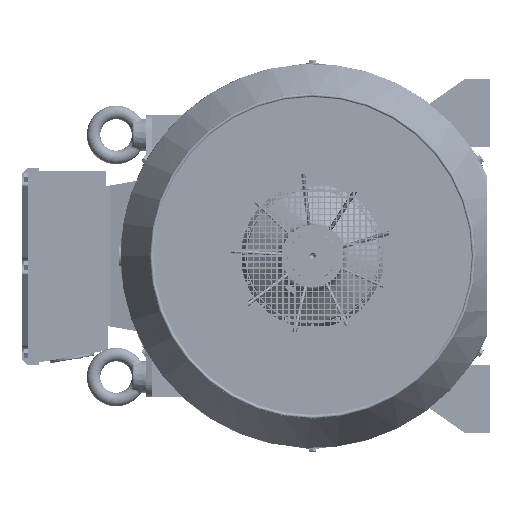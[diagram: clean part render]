
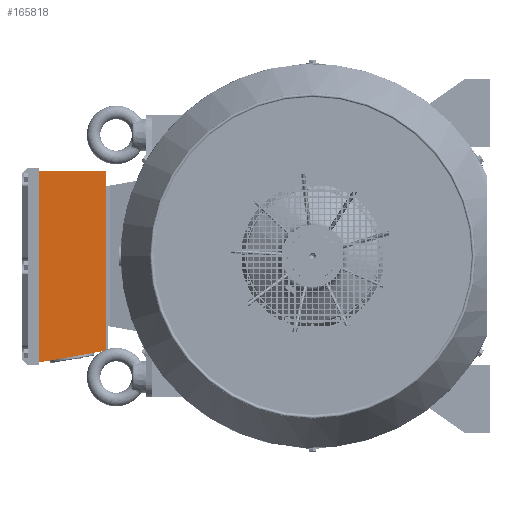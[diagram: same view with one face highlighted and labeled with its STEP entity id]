
A CAD part, left-side view. The second image highlights one B-rep face of the part: STEP entity #165818.
In plain terms, the highlighted planar face has unit normal (-1, 0, 0) as drawn and (0, 0, -1) by its records, which use the part's own axes.
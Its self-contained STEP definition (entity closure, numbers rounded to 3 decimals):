
#3386 = CARTESIAN_POINT ( 'NONE',  ( 26., 122., -140. ) ) ;
#16518 = CARTESIAN_POINT ( 'NONE',  ( 319.029, 3., -140. ) ) ;
#27875 = DIRECTION ( 'NONE',  ( 1., 0., 0. ) ) ;
#39414 = CARTESIAN_POINT ( 'NONE',  ( 0., 3., -140. ) ) ;
#53161 = ORIENTED_EDGE ( 'NONE', *, *, #104107, .F. ) ;
#55942 = DIRECTION ( 'NONE',  ( -1., 0., 0. ) ) ;
#56830 = DIRECTION ( 'NONE',  ( 0.174, 0.985, 0. ) ) ;
#63144 = EDGE_CURVE ( 'NONE', #226694, #79196, #93136, .T. ) ;
#75878 = VERTEX_POINT ( 'NONE', #145299 ) ;
#79196 = VERTEX_POINT ( 'NONE', #218479 ) ;
#93136 = LINE ( 'NONE', #146915, #173506 ) ;
#100439 = LINE ( 'NONE', #101680, #136649 ) ;
#101680 = CARTESIAN_POINT ( 'NONE',  ( 0., 3., -140. ) ) ;
#104107 = EDGE_CURVE ( 'NONE', #79196, #75878, #168438, .T. ) ;
#105660 = AXIS2_PLACEMENT_3D ( 'NONE', #3386, #115938, #175847 ) ;
#112049 = ORIENTED_EDGE ( 'NONE', *, *, #224782, .F. ) ;
#115938 = DIRECTION ( 'NONE',  ( 0., 0., 1. ) ) ;
#131997 = LINE ( 'NONE', #39414, #185883 ) ;
#136649 = VECTOR ( 'NONE', #27875, 1000. ) ;
#139253 = CARTESIAN_POINT ( 'NONE',  ( 0., 3., -140. ) ) ;
#139641 = PLANE ( 'NONE',  #105660 ) ;
#145299 = CARTESIAN_POINT ( 'NONE',  ( 0., 122., -140. ) ) ;
#146915 = CARTESIAN_POINT ( 'NONE',  ( 318.5, 0., -140. ) ) ;
#160688 = VECTOR ( 'NONE', #55942, 1000. ) ;
#165818 = ADVANCED_FACE ( 'NONE', ( #234568 ), #139641, .F. ) ;
#168438 = LINE ( 'NONE', #227129, #160688 ) ;
#169312 = VERTEX_POINT ( 'NONE', #139253 ) ;
#170693 = DIRECTION ( 'NONE',  ( 0., -1., 0. ) ) ;
#173506 = VECTOR ( 'NONE', #56830, 1000. ) ;
#175847 = DIRECTION ( 'NONE',  ( 1., 0., 0. ) ) ;
#177479 = EDGE_CURVE ( 'NONE', #169312, #226694, #100439, .T. ) ;
#185883 = VECTOR ( 'NONE', #170693, 1000. ) ;
#188811 = EDGE_LOOP ( 'NONE', ( #245517, #232502, #112049, #53161 ) ) ;
#218479 = CARTESIAN_POINT ( 'NONE',  ( 340.012, 122., -140. ) ) ;
#224782 = EDGE_CURVE ( 'NONE', #75878, #169312, #131997, .T. ) ;
#226694 = VERTEX_POINT ( 'NONE', #16518 ) ;
#227129 = CARTESIAN_POINT ( 'NONE',  ( 0., 122., -140. ) ) ;
#232502 = ORIENTED_EDGE ( 'NONE', *, *, #177479, .F. ) ;
#234568 = FACE_OUTER_BOUND ( 'NONE', #188811, .T. ) ;
#245517 = ORIENTED_EDGE ( 'NONE', *, *, #63144, .F. ) ;
